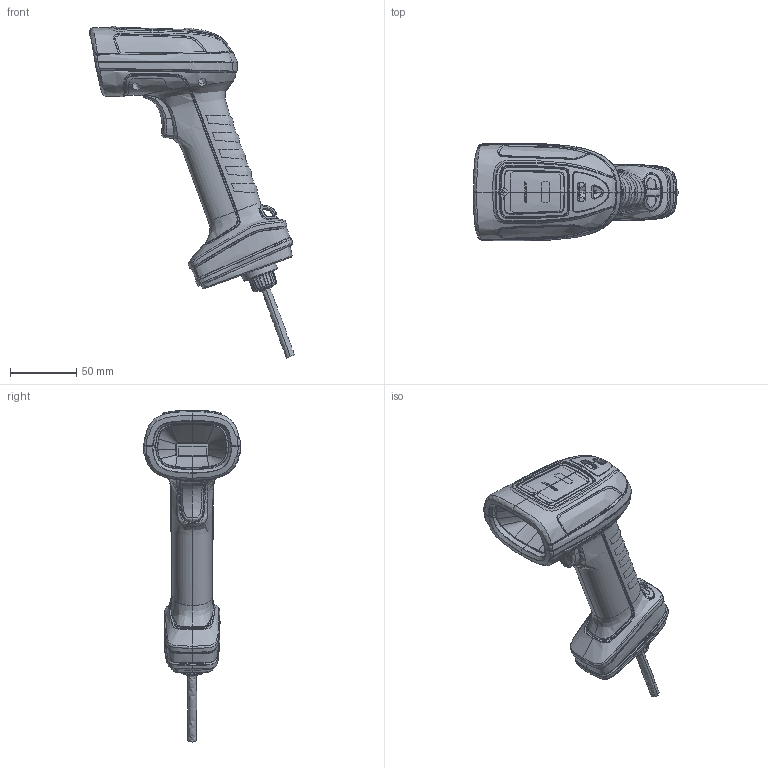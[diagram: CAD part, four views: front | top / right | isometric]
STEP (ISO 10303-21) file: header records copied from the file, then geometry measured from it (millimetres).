
FILE_DESCRIPTION(/* description */ (''),/* implementation_level */ '2;1');
FILE_NAME(/* name */ '129调~1',/* time_stamp */ '2021-12-09T20:46:45+08:00',/* author */ (''),/* organization */ (''),/* preprocessor_version */ 'ST-DEVELOPER v16.5',/* originating_system */ '',/* authorisation */ '');
FILE_SCHEMA (('AUTOMOTIVE_DESIGN'));
Products named in the file (62): Document; 00; _0007; _0001_ASM; 00012; _0002; PAM-2-6X8MM0001; 0001; 0020_ASM; 0021; 3M0001; 0005; _0008; RJ-450001; RJ45-000; 001_ASM; 0015; _0003_ASM; _0013; 0014; _0004; _0005_ASM; 0002; 003; 001; 000_L3_MD_ASM_ASM_62_ASM; 00_L3_FRAME_ASM_25_ASM; DE-12-000521_ASM_19_ASM; DE-12-000520_229; DE-12-000584_5; DE-19-000365_9; DE-12-000585_9; DE-19-000414_12; 00_L3-2_STACKING_ASM_81_ASM; 0_L3-2_CAMERA_PCB_ASM_71_ASM; L3-2_CAMERA_PCB_AF0_54; DF37NB-24DS-0_4V_AF0_1; LH-HK-OV9282-V2_0_20190614_ASM__ASM; LH-HK-OV9282-V2_0_ASM_ASM_ASM_A_ASM; ASM0001_ASM_ASM_3_ASM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
Assembly tree (66 placements, depth 12):
  Document
    00
    _0007  x2
    _0001_ASM
      00012
      _0002
      PAM-2-6X8MM0001  x2
    0001
    0020_ASM
      0021
      3M0001
    0005
    _0008
    RJ-450001
    RJ45-000
    001_ASM
      0015
    _0003_ASM
      _0013
      0014
      _0004
    _0005_ASM
      0002
      003
      001
      000_L3_MD_ASM_ASM_62_ASM
        00_L3_FRAME_ASM_25_ASM
          DE-12-000521_ASM_19_ASM
            DE-12-000520_229
            DE-12-000584_5
            DE-19-000365_9
            DE-12-000585_9
          DE-19-000414_12
        00_L3-2_STACKING_ASM_81_ASM
          0_L3-2_CAMERA_PCB_ASM_71_ASM
            L3-2_CAMERA_PCB_AF0_54
            DF37NB-24DS-0_4V_AF0_1
            LH-HK-OV9282-V2_0_20190614_ASM__ASM
              LH-HK-OV9282-V2_0_ASM_ASM_ASM_A_ASM
                ASM0001_ASM_ASM_3_ASM
                  ASM0001_ASM_ASM_ASM_4_ASM
            YX1005_00_ASM_1_ASM
              _20200304_ASM_ASM_2_ASM
                YX1005_ASM_ASM_1_ASM
                  YX1005-101_ASM_ASM_ASM_1_ASM
          L3-2-PCB-FPC-2_36
          0_L3-2_BTB_PCB_ASM_49_ASM
            L3-2_BTB_PCB_AF0_90
            513383474_1
              Block 01
        DE-11-006693_1
        SC-PA1X3_5-BNI_1  x4
      000
Bounding box: 155.14 x 73.73 x 251.01 mm (x, y, z)
Volume: 246535 mm3; surface area: 247528.4 mm2
Topology: 51 solids, 2222 shells, 9656 faces, 32798 edges, 25597 vertices
Faces by surface type: plane 5501, bspline 4155
Entity records: 626403 total; most frequent: CARTESIAN_POINT 434536, ORIENTED_EDGE 51258, EDGE_CURVE 32135, B_SPLINE_CURVE_WITH_KNOTS 28368, VERTEX_POINT 25188, EDGE_LOOP 9899, ADVANCED_FACE 9399, FACE_OUTER_BOUND 9399
